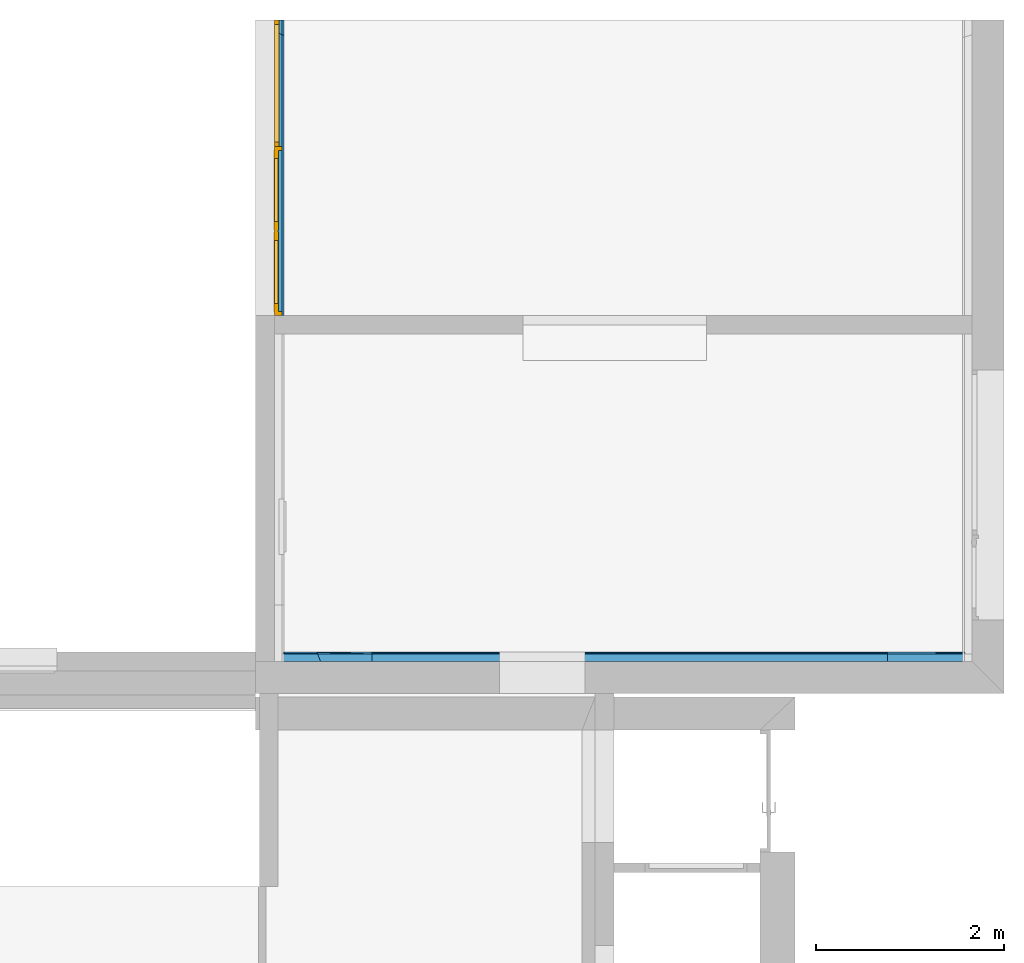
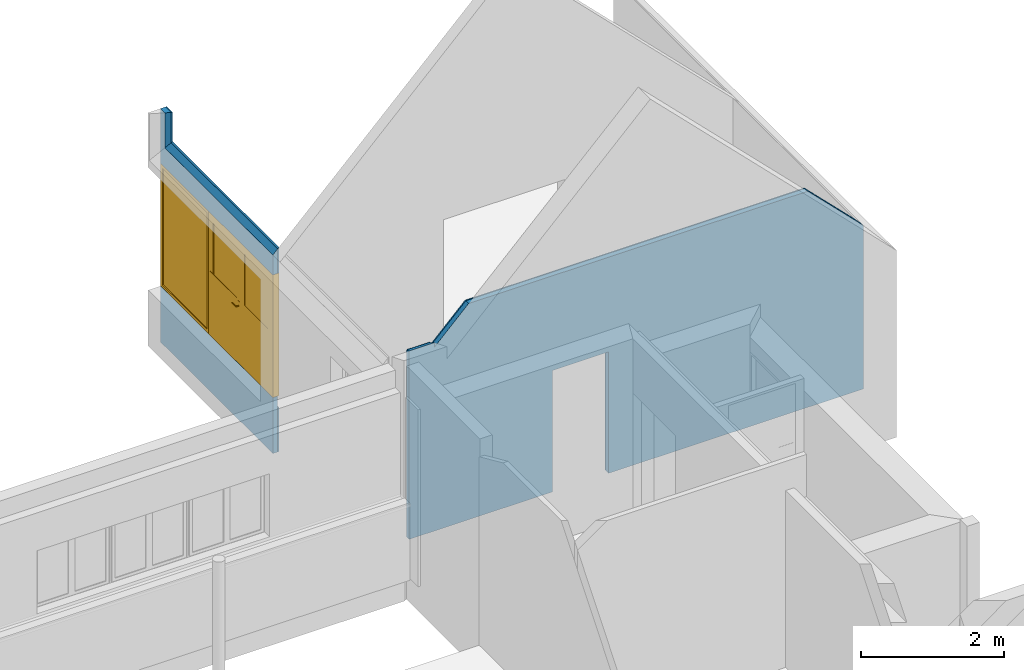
# One storey, part 28 of 34: 4 building element parts, 1 door, 1 window, 3 openings, 2 elements without a shape of their own.
"""IFC2X3 building model written with IfcOpenShell, lengths in metres."""

from ifc_helpers import new_model, entity, si_unit, converted_unit, derived_unit, money_unit, direction, frame, origin_with_axes, origin_2d_with_axis, place, context, subcontext, project, spatial, polyline, rectangle, outline, extrude, boolean, clip, bounded_halfspace, open_shell, faceted_brep, surface_model, material, type_object, element, fill, aggregate, save


model = new_model("IFC2X3")

# Units and contexts
model_context = context("Model", 3, precision=1e-05, world=origin_with_axes(), true_north=direction((0.0, 1.0)))
body_context = subcontext(model_context, "Body", "Model", "MODEL_VIEW")
ifc_project = project(units=[si_unit("LENGTHUNIT", "METRE"), si_unit("AREAUNIT", "SQUARE_METRE"), si_unit("VOLUMEUNIT", "CUBIC_METRE"), converted_unit("PLANEANGLEUNIT", "DEGREE", entity("IfcPlaneAngleMeasure", 0.0174532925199), si_unit("PLANEANGLEUNIT", "RADIAN"), dimensions=[0, 0, 0, 0, 0, 0, 0]), money_unit("CHF"), converted_unit("TIMEUNIT", "Year", entity("IfcTimeMeasure", 31556926.0), si_unit("TIMEUNIT", "SECOND"), dimensions=[0, 0, 1, 0, 0, 0, 0]), si_unit("MASSUNIT", "GRAM", prefix="KILO"), si_unit("THERMODYNAMICTEMPERATUREUNIT", "DEGREE_CELSIUS"), si_unit("LUMINOUSINTENSITYUNIT", "LUMEN"), si_unit("ENERGYUNIT", "JOULE", prefix="MEGA"), derived_unit("THERMALCONDUCTANCEUNIT", [(si_unit("POWERUNIT", "WATT"), 1), (si_unit("LENGTHUNIT", "METRE"), -1), (si_unit("THERMODYNAMICTEMPERATUREUNIT", "KELVIN"), -1)]), derived_unit("SPECIFICHEATCAPACITYUNIT", [(si_unit("ENERGYUNIT", "JOULE"), 1), (si_unit("MASSUNIT", "GRAM", prefix="KILO"), -1), (si_unit("THERMODYNAMICTEMPERATUREUNIT", "KELVIN"), -1)]), derived_unit("MASSDENSITYUNIT", [(si_unit("MASSUNIT", "GRAM", prefix="KILO"), 1), (si_unit("VOLUMEUNIT", "CUBIC_METRE"), -1)])], contexts=[model_context])

# Site, building, storey
site_placement = place(None, origin_with_axes())
site = spatial("IfcSite", under=ifc_project, at=site_placement, Name="Site", CompositionType="ELEMENT")
building_placement = place(site_placement, origin_with_axes())
building = spatial("IfcBuilding", under=site, at=building_placement, Name="Bâtiment", CompositionType="ELEMENT")
storey_placement = place(building_placement, origin_with_axes())
storey = spatial("IfcBuildingStorey", under=building, at=storey_placement, Name="RDC", CompositionType="ELEMENT", Elevation=-5.32907e-15)

# Window
window_style = type_object("IfcWindowStyle", Name="Fenêtre 25", ConstructionType="NOTDEFINED", OperationType="SINGLE_PANEL", ParameterTakesPrecedence=False, Sizeable=False)
wall_2_placement = place(storey_placement, frame((1692.13729001, 194.29004191, 0.0), z_axis=(0.0, 0.0, 1.0), x_axis=(0.0, 1.0, 0.0)))
opening_2_placement = place(wall_2_placement, frame((2.475, 0.0, 0.96), z_axis=(0.0, 0.0, 1.0), x_axis=(1.0, 0.0, 0.0)))
window_placement = place(opening_2_placement, frame((-0.675, 0.0, 0.0), z_axis=(0.0, 0.0, 1.0), x_axis=(1.0, 0.0, 0.0)))
window = element("IfcWindow", 1, at=window_placement, inside=storey, type_object=window_style, Name="Fen-012", OverallHeight=2.1, OverallWidth=1.35, context=body_context, shape_type="SurfaceModel", body=[
    faceted_brep([(1.3, -0.05, 2.05), (1.35, -0.05, 2.05), (1.35, 0.0, 2.05), (1.3, 0.0, 2.05), (1.3, -0.05, 0.05), (1.35, -0.05, 0.05), (1.35, 0.0, 0.05), (1.3, 0.0, 0.05)], [[[0, 1, 2, 3]], [[0, 4, 5, 1]], [[1, 5, 6, 2]], [[3, 2, 6, 7]], [[4, 0, 3, 7]], [[5, 4, 7, 6]]]),
    faceted_brep([(0.05, -0.05, 0.05), (0.0, -0.05, 0.05), (0.0, 0.0, 0.05), (0.05, 0.0, 0.05), (0.05, -0.05, 2.05), (0.0, -0.05, 2.05), (0.0, 0.0, 2.05), (0.05, 0.0, 2.05)], [[[0, 1, 2, 3]], [[0, 4, 5, 1]], [[1, 5, 6, 2]], [[3, 2, 6, 7]], [[4, 0, 3, 7]], [[5, 4, 7, 6]]]),
    faceted_brep([(1.3, -0.05, 0.05), (1.35, -0.05, 0.05), (1.35, 0.0, 0.05), (1.3, 0.0, 0.05), (0.05, -0.05, 0.05), (0.0, -0.05, 0.05), (0.0, -0.05, 0.0), (1.35, -0.05, 0.0), (1.35, 0.0, 0.0), (0.0, 0.0, 0.0), (0.0, 0.0, 0.05), (0.05, 0.0, 0.05)], [[[0, 1, 2, 3]], [[0, 4, 5, 6, 7, 1]], [[1, 7, 8, 2]], [[3, 2, 8, 9, 10, 11]], [[4, 0, 3, 11]], [[5, 4, 11, 10]], [[6, 5, 10, 9]], [[7, 6, 9, 8]]]),
    faceted_brep([(0.05, -0.05, 2.05), (0.0, -0.05, 2.05), (0.0, 0.0, 2.05), (0.05, 0.0, 2.05), (1.3, -0.05, 2.05), (1.35, -0.05, 2.05), (1.35, -0.05, 2.1), (0.0, -0.05, 2.1), (0.0, 0.0, 2.1), (1.35, 0.0, 2.1), (1.35, 0.0, 2.05), (1.3, 0.0, 2.05)], [[[0, 1, 2, 3]], [[0, 4, 5, 6, 7, 1]], [[1, 7, 8, 2]], [[3, 2, 8, 9, 10, 11]], [[4, 0, 3, 11]], [[5, 4, 11, 10]], [[6, 5, 10, 9]], [[7, 6, 9, 8]]]),
    surface_model("IfcShellBasedSurfaceModel", [(1.3, -0.035, 0.05), (1.3, -0.035, 2.05), (0.05, -0.035, 2.05), (0.05, -0.035, 0.05)], [open_shell([[[0, 1, 2, 3]]])]),
    surface_model("IfcShellBasedSurfaceModel", [(1.3, -0.015, 0.05), (0.05, -0.015, 0.05), (0.05, -0.015, 2.05), (1.3, -0.015, 2.05)], [open_shell([[[0, 1, 2, 3]]])]),
])

# Door
door_style = type_object("IfcDoorStyle", Name="Porte double 25", ConstructionType="NOTDEFINED", OperationType="DOUBLE_DOOR_SINGLE_SWING", ParameterTakesPrecedence=False, Sizeable=False)
opening_3_placement = place(wall_2_placement, frame((0.9, 0.0, 0.96), z_axis=(0.0, 0.0, 1.0), x_axis=(1.0, 0.0, 0.0)))
door_placement = place(opening_3_placement, frame((-0.9, 0.0, 0.0), z_axis=(0.0, 0.0, 1.0), x_axis=(1.0, 0.0, 0.0)))
door = element("IfcDoor", 2, at=door_placement, inside=storey, type_object=door_style, Name="Por-006", OverallHeight=2.1, OverallWidth=1.8, context=body_context, shape_type="SurfaceModel", body=[
    faceted_brep([(0.04, -0.04, 0.0), (0.04, -0.04, 2.06), (0.04, -0.1, 2.06), (0.04, -0.1, 0.0), (0.028, -0.04, 2.06), (0.028, -0.04, 0.0), (0.028, 0.0, 2.06), (0.0, 0.0, 2.06), (0.0, -0.1, 2.06), (0.0, -0.1, 0.0), (0.0, 0.0, 0.0), (0.028, 0.0, 0.0)], [[[0, 1, 2, 3]], [[4, 1, 0, 5]], [[4, 6, 7, 8, 2, 1]], [[3, 2, 8, 9]], [[5, 0, 3, 9, 10, 11]], [[6, 4, 5, 11]], [[6, 11, 10, 7]], [[10, 9, 8, 7]]]),
    faceted_brep([(1.772, -0.04, 2.06), (1.76, -0.04, 2.06), (1.76, -0.1, 2.06), (1.8, -0.1, 2.06), (1.8, 0.0, 2.06), (1.772, 0.0, 2.06), (1.772, -0.04, 0.0), (1.76, -0.04, 0.0), (1.76, -0.1, 0.0), (1.8, -0.1, 0.0), (1.8, 0.0, 0.0), (1.772, 0.0, 0.0)], [[[0, 1, 2, 3, 4, 5]], [[1, 0, 6, 7]], [[1, 7, 8, 2]], [[3, 2, 8, 9]], [[4, 3, 9, 10]], [[11, 5, 4, 10]], [[0, 5, 11, 6]], [[6, 11, 10, 9, 8, 7]]]),
    faceted_brep([(0.028, 0.0, 2.072), (0.028, 0.0, 2.06), (0.0, 0.0, 2.06), (0.0, 0.0, 2.1), (1.8, 0.0, 2.1), (1.8, 0.0, 2.06), (1.772, 0.0, 2.06), (1.772, 0.0, 2.072), (0.028, -0.04, 2.072), (0.028, -0.04, 2.06), (0.04, -0.04, 2.06), (0.04, -0.1, 2.06), (0.0, -0.1, 2.06), (0.0, -0.1, 2.1), (1.8, -0.1, 2.1), (1.8, -0.1, 2.06), (1.772, -0.04, 2.06), (1.76, -0.1, 2.06), (1.76, -0.04, 2.06), (1.772, -0.04, 2.072)], [[[0, 1, 2, 3, 4, 5, 6, 7]], [[1, 0, 8, 9]], [[9, 10, 11, 12, 2, 1]], [[2, 12, 13, 3]], [[3, 13, 14, 4]], [[4, 14, 15, 5]], [[16, 6, 5, 15, 17, 18]], [[7, 6, 16, 19]], [[0, 7, 19, 8]], [[16, 18, 10, 9, 8, 19]], [[10, 18, 17, 11]], [[17, 15, 14, 13, 12, 11]]]),
    faceted_brep([(0.925, -0.04, 0.93), (0.926903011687, -0.04, 0.920432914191), (0.926903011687, -0.045, 0.920432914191), (0.925, -0.045, 0.93), (0.925, -0.04, 1.055), (0.926903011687, -0.04, 1.06456708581), (0.93232233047, -0.04, 1.07267766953), (0.940432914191, -0.04, 1.07809698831), (0.95, -0.04, 1.08), (0.959567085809, -0.04, 1.07809698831), (0.96767766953, -0.04, 1.07267766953), (0.973096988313, -0.04, 1.06456708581), (0.975, -0.04, 1.055), (0.975, -0.04, 0.93), (0.973096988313, -0.04, 0.920432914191), (0.96767766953, -0.04, 0.91232233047), (0.959567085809, -0.04, 0.906903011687), (0.95, -0.04, 0.905), (0.940432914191, -0.04, 0.906903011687), (0.93232233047, -0.04, 0.91232233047), (0.93232233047, -0.045, 0.91232233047), (0.940432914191, -0.045, 0.906903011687), (0.95, -0.045, 0.905), (0.959567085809, -0.045, 0.906903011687), (0.96767766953, -0.045, 0.91232233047), (0.973096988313, -0.045, 0.920432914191), (0.975, -0.045, 0.93), (0.975, -0.045, 1.055), (0.973096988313, -0.045, 1.06456708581), (0.96767766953, -0.045, 1.07267766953), (0.959567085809, -0.045, 1.07809698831), (0.95, -0.045, 1.08), (0.940432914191, -0.045, 1.07809698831), (0.93232233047, -0.045, 1.07267766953), (0.926903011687, -0.045, 1.06456708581), (0.925, -0.045, 1.055)], [[[0, 1, 2, 3]], [[0, 4, 5, 6, 7, 8, 9, 10, 11, 12, 13, 14, 15, 16, 17, 18, 19, 1]], [[1, 19, 20, 2]], [[3, 2, 20, 21, 22, 23, 24, 25, 26, 27, 28, 29, 30, 31, 32, 33, 34, 35]], [[4, 0, 3, 35]], [[5, 4, 35, 34]], [[6, 5, 34, 33]], [[7, 6, 33, 32]], [[8, 7, 32, 31]], [[9, 8, 31, 30]], [[10, 9, 30, 29]], [[11, 10, 29, 28]], [[12, 11, 28, 27]], [[13, 12, 27, 26]], [[14, 13, 26, 25]], [[15, 14, 25, 24]], [[16, 15, 24, 23]], [[17, 16, 23, 22]], [[18, 17, 22, 21]], [[19, 18, 21, 20]]]),
    faceted_brep([(0.9575, -0.045, 1.005), (0.9575, -0.075, 1.005), (0.9575, -0.075, 0.995), (0.9575, -0.045, 0.995), (0.9425, -0.045, 1.005), (0.9425, -0.082, 1.005), (0.943489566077, -0.0869748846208, 1.005), (0.946307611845, -0.0911923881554, 1.005), (0.950525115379, -0.0940104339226, 1.005), (0.9555, -0.095, 1.005), (1.0625, -0.095, 1.005), (1.0625, -0.093, 1.005), (1.06151043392, -0.0880251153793, 1.005), (1.05869238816, -0.0838076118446, 1.005), (1.05447488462, -0.0809895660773, 1.005), (1.0495, -0.08, 1.005), (0.9625, -0.08, 1.005), (0.960586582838, -0.0796193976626, 1.005), (0.958964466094, -0.0785355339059, 1.005), (0.957880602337, -0.0769134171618, 1.005), (0.957880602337, -0.0769134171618, 0.995), (0.958964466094, -0.0785355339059, 0.995), (0.960586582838, -0.0796193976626, 0.995), (0.9625, -0.08, 0.995), (1.0495, -0.08, 0.995), (1.05447488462, -0.0809895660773, 0.995), (1.05869238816, -0.0838076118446, 0.995), (1.06151043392, -0.0880251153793, 0.995), (1.0625, -0.093, 0.995), (1.0625, -0.095, 0.995), (0.9555, -0.095, 0.995), (0.950525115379, -0.0940104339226, 0.995), (0.946307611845, -0.0911923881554, 0.995), (0.943489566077, -0.0869748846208, 0.995), (0.9425, -0.082, 0.995), (0.9425, -0.045, 0.995)], [[[0, 1, 2, 3]], [[0, 4, 5, 6, 7, 8, 9, 10, 11, 12, 13, 14, 15, 16, 17, 18, 19, 1]], [[1, 19, 20, 2]], [[3, 2, 20, 21, 22, 23, 24, 25, 26, 27, 28, 29, 30, 31, 32, 33, 34, 35]], [[4, 0, 3, 35]], [[5, 4, 35, 34]], [[6, 5, 34, 33]], [[7, 6, 33, 32]], [[8, 7, 32, 31]], [[9, 8, 31, 30]], [[10, 9, 30, 29]], [[11, 10, 29, 28]], [[12, 11, 28, 27]], [[13, 12, 27, 26]], [[14, 13, 26, 25]], [[15, 14, 25, 24]], [[16, 15, 24, 23]], [[17, 16, 23, 22]], [[18, 17, 22, 21]], [[19, 18, 21, 20]]]),
    faceted_brep([(0.925, 0.0, 0.93), (0.925, 0.005, 0.93), (0.926903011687, 0.005, 0.920432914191), (0.926903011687, 0.0, 0.920432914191), (0.925, 0.0, 1.055), (0.925, 0.005, 1.055), (0.926903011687, 0.005, 1.06456708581), (0.93232233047, 0.005, 1.07267766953), (0.940432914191, 0.005, 1.07809698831), (0.95, 0.005, 1.08), (0.959567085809, 0.005, 1.07809698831), (0.96767766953, 0.005, 1.07267766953), (0.973096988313, 0.005, 1.06456708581), (0.975, 0.005, 1.055), (0.975, 0.005, 0.93), (0.973096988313, 0.005, 0.920432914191), (0.96767766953, 0.005, 0.91232233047), (0.959567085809, 0.005, 0.906903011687), (0.95, 0.005, 0.905), (0.940432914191, 0.005, 0.906903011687), (0.93232233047, 0.005, 0.91232233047), (0.93232233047, 0.0, 0.91232233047), (0.940432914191, 0.0, 0.906903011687), (0.95, 0.0, 0.905), (0.959567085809, 0.0, 0.906903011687), (0.96767766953, 0.0, 0.91232233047), (0.973096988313, 0.0, 0.920432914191), (0.975, 0.0, 0.93), (0.975, 0.0, 1.055), (0.973096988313, 0.0, 1.06456708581), (0.96767766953, 0.0, 1.07267766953), (0.959567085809, 0.0, 1.07809698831), (0.95, 0.0, 1.08), (0.940432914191, 0.0, 1.07809698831), (0.93232233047, 0.0, 1.07267766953), (0.926903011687, 0.0, 1.06456708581)], [[[0, 1, 2, 3]], [[4, 5, 1, 0]], [[1, 5, 6, 7, 8, 9, 10, 11, 12, 13, 14, 15, 16, 17, 18, 19, 20, 2]], [[3, 2, 20, 21]], [[0, 3, 21, 22, 23, 24, 25, 26, 27, 28, 29, 30, 31, 32, 33, 34, 35, 4]], [[35, 6, 5, 4]], [[34, 7, 6, 35]], [[33, 8, 7, 34]], [[32, 9, 8, 33]], [[31, 10, 9, 32]], [[30, 11, 10, 31]], [[29, 12, 11, 30]], [[28, 13, 12, 29]], [[27, 14, 13, 28]], [[26, 15, 14, 27]], [[25, 16, 15, 26]], [[24, 17, 16, 25]], [[23, 18, 17, 24]], [[22, 19, 18, 23]], [[21, 20, 19, 22]]]),
    faceted_brep([(0.9575, 0.005, 1.005), (0.9575, 0.005, 0.995), (0.9575, 0.035, 0.995), (0.9575, 0.035, 1.005), (0.9425, 0.005, 1.005), (0.9425, 0.005, 0.995), (0.9425, 0.042, 0.995), (0.943489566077, 0.0469748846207, 0.995), (0.946307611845, 0.0511923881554, 0.995), (0.950525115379, 0.0540104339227, 0.995), (0.9555, 0.055, 0.995), (1.0625, 0.055, 0.995), (1.0625, 0.053, 0.995), (1.06151043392, 0.0480251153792, 0.995), (1.05869238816, 0.0438076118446, 0.995), (1.05447488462, 0.0409895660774, 0.995), (1.0495, 0.04, 0.995), (0.9625, 0.04, 0.995), (0.960586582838, 0.0396193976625, 0.995), (0.958964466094, 0.0385355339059, 0.995), (0.957880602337, 0.0369134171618, 0.995), (0.957880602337, 0.0369134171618, 1.005), (0.958964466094, 0.0385355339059, 1.005), (0.960586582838, 0.0396193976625, 1.005), (0.9625, 0.04, 1.005), (1.0495, 0.04, 1.005), (1.05447488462, 0.0409895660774, 1.005), (1.05869238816, 0.0438076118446, 1.005), (1.06151043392, 0.0480251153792, 1.005), (1.0625, 0.053, 1.005), (1.0625, 0.055, 1.005), (0.9555, 0.055, 1.005), (0.950525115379, 0.0540104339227, 1.005), (0.946307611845, 0.0511923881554, 1.005), (0.943489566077, 0.0469748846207, 1.005), (0.9425, 0.042, 1.005)], [[[0, 1, 2, 3]], [[4, 5, 1, 0]], [[1, 5, 6, 7, 8, 9, 10, 11, 12, 13, 14, 15, 16, 17, 18, 19, 20, 2]], [[3, 2, 20, 21]], [[0, 3, 21, 22, 23, 24, 25, 26, 27, 28, 29, 30, 31, 32, 33, 34, 35, 4]], [[35, 6, 5, 4]], [[34, 7, 6, 35]], [[33, 8, 7, 34]], [[32, 9, 8, 33]], [[31, 10, 9, 32]], [[30, 11, 10, 31]], [[29, 12, 11, 30]], [[28, 13, 12, 29]], [[27, 14, 13, 28]], [[26, 15, 14, 27]], [[25, 16, 15, 26]], [[24, 17, 16, 25]], [[23, 18, 17, 24]], [[22, 19, 18, 23]], [[21, 20, 19, 22]]]),
    faceted_brep([(1.762, 0.00200000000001, 0.01), (1.762, 0.0, 0.01), (0.91, 0.0, 0.01), (0.91, 0.00200000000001, 0.01), (1.762, 0.00200000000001, 1.1), (1.762, 0.0, 1.1), (0.91, 0.0, 1.1), (0.91, 0.00200000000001, 1.1)], [[[0, 1, 2, 3]], [[4, 5, 1, 0]], [[1, 5, 6, 2]], [[3, 2, 6, 7]], [[0, 3, 7, 4]], [[7, 6, 5, 4]]]),
    faceted_brep([(1.762, -0.04, 0.01), (1.762, -0.042, 0.01), (0.91, -0.042, 0.01), (0.91, -0.04, 0.01), (1.762, -0.04, 1.1), (1.762, -0.042, 1.1), (0.91, -0.042, 1.1), (0.91, -0.04, 1.1)], [[[0, 1, 2, 3]], [[4, 5, 1, 0]], [[1, 5, 6, 2]], [[3, 2, 6, 7]], [[0, 3, 7, 4]], [[7, 6, 5, 4]]]),
    faceted_brep([(1.772, 0.0, 0.2), (1.772, -0.04, 0.2), (1.672, -0.04, 0.2), (1.672, 0.0, 0.2), (1.772, 0.0, 1.972), (1.772, -0.04, 1.972), (1.672, -0.04, 1.972), (1.672, 0.0, 1.972)], [[[0, 1, 2, 3]], [[4, 5, 1, 0]], [[1, 5, 6, 2]], [[3, 2, 6, 7]], [[0, 3, 7, 4]], [[7, 6, 5, 4]]]),
    faceted_brep([(0.9, 0.0, 0.2), (0.9, -0.04, 0.2), (0.9, -0.04, 1.972), (0.9, 0.0, 1.972), (1.0, 0.0, 0.2), (1.0, -0.04, 0.2), (1.0, -0.04, 1.972), (1.0, 0.0, 1.972)], [[[0, 1, 2, 3]], [[4, 5, 1, 0]], [[1, 5, 6, 2]], [[3, 2, 6, 7]], [[0, 3, 7, 4]], [[7, 6, 5, 4]]]),
    faceted_brep([(1.772, 0.0, 0.0), (1.772, -0.04, 0.0), (0.9, -0.04, 0.0), (0.9, 0.0, 0.0), (1.772, 0.0, 0.2), (1.772, -0.04, 0.2), (1.672, -0.04, 0.2), (1.0, -0.04, 0.2), (0.9, -0.04, 0.2), (0.9, 0.0, 0.2), (1.0, 0.0, 0.2), (1.672, 0.0, 0.2)], [[[0, 1, 2, 3]], [[4, 5, 1, 0]], [[1, 5, 6, 7, 8, 2]], [[3, 2, 8, 9]], [[0, 3, 9, 10, 11, 4]], [[11, 6, 5, 4]], [[10, 7, 6, 11]], [[9, 8, 7, 10]]]),
    faceted_brep([(1.772, 0.0, 2.072), (1.772, -0.04, 2.072), (1.772, -0.04, 1.972), (1.772, 0.0, 1.972), (0.9, 0.0, 2.072), (0.9, -0.04, 2.072), (0.9, -0.04, 1.972), (1.0, -0.04, 1.972), (1.672, -0.04, 1.972), (1.672, 0.0, 1.972), (1.0, 0.0, 1.972), (0.9, 0.0, 1.972)], [[[0, 1, 2, 3]], [[4, 5, 1, 0]], [[1, 5, 6, 7, 8, 2]], [[3, 2, 8, 9]], [[0, 3, 9, 10, 11, 4]], [[11, 6, 5, 4]], [[10, 7, 6, 11]], [[9, 8, 7, 10]]]),
    surface_model("IfcShellBasedSurfaceModel", [(1.672, -0.014, 0.2), (1.0, -0.014, 0.2), (1.0, -0.014, 1.972), (1.672, -0.014, 1.972)], [open_shell([[[0, 1, 2, 3]]])]),
    surface_model("IfcShellBasedSurfaceModel", [(1.672, -0.026, 0.2), (1.672, -0.026, 1.972), (1.0, -0.026, 1.972), (1.0, -0.026, 0.2)], [open_shell([[[0, 1, 2, 3]]])]),
    faceted_brep([(0.038, 0.00200000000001, 0.01), (0.89, 0.00200000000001, 0.01), (0.89, 0.0, 0.01), (0.038, 0.0, 0.01), (0.038, 0.00200000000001, 1.1), (0.89, 0.00200000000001, 1.1), (0.89, 0.0, 1.1), (0.038, 0.0, 1.1)], [[[0, 1, 2, 3]], [[0, 4, 5, 1]], [[1, 5, 6, 2]], [[3, 2, 6, 7]], [[4, 0, 3, 7]], [[5, 4, 7, 6]]]),
    faceted_brep([(0.038, -0.04, 0.01), (0.89, -0.04, 0.01), (0.89, -0.042, 0.01), (0.038, -0.042, 0.01), (0.038, -0.04, 1.1), (0.89, -0.04, 1.1), (0.89, -0.042, 1.1), (0.038, -0.042, 1.1)], [[[0, 1, 2, 3]], [[0, 4, 5, 1]], [[1, 5, 6, 2]], [[3, 2, 6, 7]], [[4, 0, 3, 7]], [[5, 4, 7, 6]]]),
    faceted_brep([(0.028, 0.0, 0.2), (0.128, 0.0, 0.2), (0.128, -0.04, 0.2), (0.028, -0.04, 0.2), (0.028, 0.0, 1.972), (0.128, 0.0, 1.972), (0.128, -0.04, 1.972), (0.028, -0.04, 1.972)], [[[0, 1, 2, 3]], [[0, 4, 5, 1]], [[1, 5, 6, 2]], [[3, 2, 6, 7]], [[4, 0, 3, 7]], [[5, 4, 7, 6]]]),
    faceted_brep([(0.9, 0.0, 0.2), (0.9, 0.0, 1.972), (0.9, -0.04, 1.972), (0.9, -0.04, 0.2), (0.8, 0.0, 0.2), (0.8, 0.0, 1.972), (0.8, -0.04, 1.972), (0.8, -0.04, 0.2)], [[[0, 1, 2, 3]], [[0, 4, 5, 1]], [[1, 5, 6, 2]], [[3, 2, 6, 7]], [[4, 0, 3, 7]], [[5, 4, 7, 6]]]),
    faceted_brep([(0.028, 0.0, 0.0), (0.9, 0.0, 0.0), (0.9, -0.04, 0.0), (0.028, -0.04, 0.0), (0.028, 0.0, 0.2), (0.128, 0.0, 0.2), (0.8, 0.0, 0.2), (0.9, 0.0, 0.2), (0.9, -0.04, 0.2), (0.8, -0.04, 0.2), (0.128, -0.04, 0.2), (0.028, -0.04, 0.2)], [[[0, 1, 2, 3]], [[0, 4, 5, 6, 7, 1]], [[1, 7, 8, 2]], [[3, 2, 8, 9, 10, 11]], [[4, 0, 3, 11]], [[5, 4, 11, 10]], [[6, 5, 10, 9]], [[7, 6, 9, 8]]]),
    faceted_brep([(0.028, 0.0, 2.072), (0.028, 0.0, 1.972), (0.028, -0.04, 1.972), (0.028, -0.04, 2.072), (0.9, 0.0, 2.072), (0.9, 0.0, 1.972), (0.8, 0.0, 1.972), (0.128, 0.0, 1.972), (0.128, -0.04, 1.972), (0.8, -0.04, 1.972), (0.9, -0.04, 1.972), (0.9, -0.04, 2.072)], [[[0, 1, 2, 3]], [[0, 4, 5, 6, 7, 1]], [[1, 7, 8, 2]], [[3, 2, 8, 9, 10, 11]], [[4, 0, 3, 11]], [[5, 4, 11, 10]], [[6, 5, 10, 9]], [[7, 6, 9, 8]]]),
    surface_model("IfcShellBasedSurfaceModel", [(0.128, -0.014, 0.2), (0.128, -0.014, 1.972), (0.8, -0.014, 1.972), (0.8, -0.014, 0.2)], [open_shell([[[0, 1, 2, 3]]])]),
    surface_model("IfcShellBasedSurfaceModel", [(0.128, -0.026, 0.2), (0.8, -0.026, 0.2), (0.8, -0.026, 1.972), (0.128, -0.026, 1.972)], [open_shell([[[0, 1, 2, 3]]])]),
])

# Wall, opening, building element parts
wall_type = type_object("IfcWallType", Name="DOUBLAGE ISO + BA13 10 CM  100", PredefinedType="NOTDEFINED")
wall_1_placement = place(storey_placement, frame((1692.13729001, 190.60004191, 0.74), z_axis=(0.0, 0.0, 1.0), x_axis=(1.0, 0.0, 0.0)))
wall_1 = element("IfcWall", 3, at=wall_1_placement, inside=storey, type_object=wall_type, Name="Mur-006")
opening_1_placement = place(wall_1_placement, frame((2.855, 0.0, 0.0), z_axis=(0.0, 0.0, 1.0), x_axis=(1.0, 0.0, 0.0)))
element("IfcOpeningElement", 4, at=opening_1_placement, cuts=wall_1, Name="Por-004", context=body_context, shape_type="SweptSolid", body=[
    extrude(rectangle(XDim=0.91, YDim=2.08, at=origin_2d_with_axis()), frame((0.0, 0.1, 1.04), z_axis=(0.0, -1.0, 0.0), x_axis=(1.0, 0.0, 0.0)), (0.0, 0.0, -1.0), 0.1),
    extrude(rectangle(XDim=0.91, YDim=2.08, at=origin_2d_with_axis()), frame((0.0, 0.1, 1.04), z_axis=(0.0, 1.0, 0.0), x_axis=(1.0, 0.0, 0.0)), (0.0, 0.0, -1.0), 0.1),
])
ifc_material_1 = material(Name="Plâtre lissé 291446788")
building_element_part_1_placement = place(wall_1_placement, origin_with_axes())
building_element_part_1 = element("IfcBuildingElementPart", 5, at=building_element_part_1_placement, material=ifc_material_1, Name="Plâtre lissé 291446788", context=body_context, shape_type="CSG", body=[
    boolean("DIFFERENCE", boolean("DIFFERENCE", boolean("DIFFERENCE", boolean("DIFFERENCE", boolean("DIFFERENCE", boolean("DIFFERENCE", clip(extrude(outline(polyline([(-0.2, 0.08), (7.78, 0.08), (7.78, 0.1), (-0.2, 0.1), (-0.2, 0.08)])), origin_with_axes(), (0.0, 0.0, 1.0), 3.70258067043), bounded_halfspace(frame((0.0, 1.11300192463, 2.78250481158), z_axis=(0.0, -0.371390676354, -0.928476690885), x_axis=(0.0, 0.928476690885, -0.371390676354)), True, origin_with_axes(), polyline([(-25.0097911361, 0.1), (-24.9660764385, -0.01), (0.528097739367, -0.01), (0.480408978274, 0.11), (-25.0097911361, 0.11), (-25.0097911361, 0.1)]))), faceted_brep([(0.0, 0.0999999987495, 3.70258067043), (0.0, 0.0999999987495, 3.26), (0.1, 0.1, 3.26), (0.1, 0.1, 0.0), (-0.2, 0.1, 0.0), (-0.2, 0.1, 3.70258067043), (0.0, 0.08, 3.70258067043), (0.0, 0.08, 3.26), (0.08, 0.08, 3.26), (0.1, 0.08, 3.26), (0.1, 0.08, 0.0), (-0.2, 0.08, 0.0), (-0.2, 0.08, 3.70258067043)], [[[0, 1, 2, 3, 4, 5]], [[1, 0, 6, 7]], [[2, 1, 7, 8, 9]], [[3, 2, 9, 10]], [[3, 10, 11, 4]], [[5, 4, 11, 12]], [[6, 0, 5, 12]], [[7, 6, 12, 11, 10, 9, 8]]])), faceted_brep([(0.452507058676, 0.0999999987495, 3.70258067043), (0.460455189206, 0.08, 3.70258067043), (1.04258064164, 0.08, 3.70258067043), (1.04258064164, 0.0999999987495, 3.70258067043), (0.460455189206, 0.08, 3.120455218), (0.452507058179, 0.1, 3.11250708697)], [[[0, 1, 2, 3]], [[4, 1, 0, 5]], [[4, 2, 1]], [[5, 3, 2, 4]], [[5, 0, 3]]])), faceted_brep([(7.36, 0.0999999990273, 2.87999996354), (6.53741929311, 0.0999999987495, 3.70258067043), (7.78, 0.1, 3.70258067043), (7.78, 0.1, 0.0), (7.36, 0.1, 0.0), (7.36, 0.08, 2.87999996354), (6.53741929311, 0.08, 3.70258067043), (7.78, 0.08, 3.70258067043), (7.78, 0.08, 0.0), (7.36, 0.08, 0.0)], [[[0, 1, 2, 3, 4]], [[1, 0, 5, 6]], [[1, 6, 7, 2]], [[7, 8, 3, 2]], [[9, 4, 3, 8]], [[0, 4, 9, 5]], [[5, 9, 8, 7, 6]]])), faceted_brep([(0.0, 0.08, 3.70258067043), (0.0, 0.08, 3.26), (0.08, 0.08, 3.26), (0.08, 0.08, 0.0), (-0.2, 0.08, 0.0), (-0.2, 0.08, 3.70258067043), (0.0, 0.0, 3.70258067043), (0.0, 0.0, 3.26), (0.08, 0.0, 3.26), (0.08, 0.0, 0.0), (-0.2, 0.0, 0.0), (-0.2, 0.0, 3.70258067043)], [[[0, 1, 2, 3, 4, 5]], [[1, 0, 6, 7]], [[2, 1, 7, 8]], [[3, 2, 8, 9]], [[3, 9, 10, 4]], [[5, 4, 10, 11]], [[6, 0, 5, 11]], [[7, 6, 11, 10, 9, 8]]])), faceted_brep([(0.460455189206, 0.08, 3.70258067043), (0.492247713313, 0.0, 3.70258067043), (1.04258064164, 0.0, 3.70258067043), (1.04258064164, 0.08, 3.70258067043), (0.492247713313, 0.0, 3.1522477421), (0.460455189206, 0.08, 3.120455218)], [[[0, 1, 2, 3]], [[4, 1, 0, 5]], [[4, 2, 1]], [[5, 3, 2, 4]], [[5, 0, 3]]])), faceted_brep([(7.36, 0.08, 2.87999996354), (6.53741929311, 0.08, 3.70258067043), (7.78, 0.08, 3.70258067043), (7.78, 0.08, 0.0), (7.44, 0.08, 0.0), (7.44, 0.08, 2.79999996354), (7.44, 0.0, 2.79999996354), (6.53741929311, 0.0, 3.70258067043), (7.78, 0.0, 3.70258067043), (7.78, 0.0, 0.0), (7.44, 0.0, 0.0)], [[[0, 1, 2, 3, 4, 5]], [[0, 5, 6, 7, 1]], [[1, 7, 8, 2]], [[8, 9, 3, 2]], [[10, 4, 3, 9]], [[5, 4, 10, 6]], [[6, 10, 9, 8, 7]]])),
])
ifc_material_2 = material(Name="Isolation laine de pierre 378182646")
building_element_part_2_placement = place(wall_1_placement, origin_with_axes())
building_element_part_2 = element("IfcBuildingElementPart", 6, at=building_element_part_2_placement, material=ifc_material_2, Name="Isolation laine de pierre 378182646", context=body_context, shape_type="CSG", body=[
    boolean("DIFFERENCE", boolean("DIFFERENCE", boolean("DIFFERENCE", boolean("DIFFERENCE", boolean("DIFFERENCE", boolean("DIFFERENCE", clip(extrude(outline(polyline([(-0.2, 0.0), (7.78, 0.0), (7.78, 0.08), (-0.2, 0.08), (-0.2, 0.0)])), origin_with_axes(), (0.0, 0.0, 1.0), 3.70258067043), bounded_halfspace(frame((0.0, 1.11300192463, 2.78250481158), z_axis=(0.0, -0.371390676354, -0.928476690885), x_axis=(0.0, 0.928476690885, -0.371390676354)), True, origin_with_axes(), polyline([(-25.0097911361, 0.1), (-24.9660764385, -0.01), (0.528097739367, -0.01), (0.480408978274, 0.11), (-25.0097911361, 0.11), (-25.0097911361, 0.1)]))), faceted_brep([(0.0, 0.0999999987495, 3.70258067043), (0.0, 0.0999999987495, 3.26), (0.1, 0.1, 3.26), (0.1, 0.1, 0.0), (-0.2, 0.1, 0.0), (-0.2, 0.1, 3.70258067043), (0.0, 0.08, 3.70258067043), (0.0, 0.08, 3.26), (0.08, 0.08, 3.26), (0.1, 0.08, 3.26), (0.1, 0.08, 0.0), (-0.2, 0.08, 0.0), (-0.2, 0.08, 3.70258067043)], [[[0, 1, 2, 3, 4, 5]], [[1, 0, 6, 7]], [[2, 1, 7, 8, 9]], [[3, 2, 9, 10]], [[3, 10, 11, 4]], [[5, 4, 11, 12]], [[6, 0, 5, 12]], [[7, 6, 12, 11, 10, 9, 8]]])), faceted_brep([(0.452507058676, 0.0999999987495, 3.70258067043), (0.460455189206, 0.08, 3.70258067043), (1.04258064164, 0.08, 3.70258067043), (1.04258064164, 0.0999999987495, 3.70258067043), (0.460455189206, 0.08, 3.120455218), (0.452507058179, 0.1, 3.11250708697)], [[[0, 1, 2, 3]], [[4, 1, 0, 5]], [[4, 2, 1]], [[5, 3, 2, 4]], [[5, 0, 3]]])), faceted_brep([(7.36, 0.0999999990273, 2.87999996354), (6.53741929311, 0.0999999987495, 3.70258067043), (7.78, 0.1, 3.70258067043), (7.78, 0.1, 0.0), (7.36, 0.1, 0.0), (7.36, 0.08, 2.87999996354), (6.53741929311, 0.08, 3.70258067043), (7.78, 0.08, 3.70258067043), (7.78, 0.08, 0.0), (7.36, 0.08, 0.0)], [[[0, 1, 2, 3, 4]], [[1, 0, 5, 6]], [[1, 6, 7, 2]], [[7, 8, 3, 2]], [[9, 4, 3, 8]], [[0, 4, 9, 5]], [[5, 9, 8, 7, 6]]])), faceted_brep([(0.0, 0.08, 3.70258067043), (0.0, 0.08, 3.26), (0.08, 0.08, 3.26), (0.08, 0.08, 0.0), (-0.2, 0.08, 0.0), (-0.2, 0.08, 3.70258067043), (0.0, 0.0, 3.70258067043), (0.0, 0.0, 3.26), (0.08, 0.0, 3.26), (0.08, 0.0, 0.0), (-0.2, 0.0, 0.0), (-0.2, 0.0, 3.70258067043)], [[[0, 1, 2, 3, 4, 5]], [[1, 0, 6, 7]], [[2, 1, 7, 8]], [[3, 2, 8, 9]], [[3, 9, 10, 4]], [[5, 4, 10, 11]], [[6, 0, 5, 11]], [[7, 6, 11, 10, 9, 8]]])), faceted_brep([(0.460455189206, 0.08, 3.70258067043), (0.492247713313, 0.0, 3.70258067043), (1.04258064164, 0.0, 3.70258067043), (1.04258064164, 0.08, 3.70258067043), (0.492247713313, 0.0, 3.1522477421), (0.460455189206, 0.08, 3.120455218)], [[[0, 1, 2, 3]], [[4, 1, 0, 5]], [[4, 2, 1]], [[5, 3, 2, 4]], [[5, 0, 3]]])), faceted_brep([(7.36, 0.08, 2.87999996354), (6.53741929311, 0.08, 3.70258067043), (7.78, 0.08, 3.70258067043), (7.78, 0.08, 0.0), (7.44, 0.08, 0.0), (7.44, 0.08, 2.79999996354), (7.44, 0.0, 2.79999996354), (6.53741929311, 0.0, 3.70258067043), (7.78, 0.0, 3.70258067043), (7.78, 0.0, 0.0), (7.44, 0.0, 0.0)], [[[0, 1, 2, 3, 4, 5]], [[0, 5, 6, 7, 1]], [[1, 7, 8, 2]], [[8, 9, 3, 2]], [[10, 4, 3, 9]], [[5, 4, 10, 6]], [[6, 10, 9, 8, 7]]])),
])
aggregate(wall_1, [building_element_part_1, building_element_part_2])

# Wall, opening
wall_2 = element("IfcWall", 7, at=wall_2_placement, inside=storey, type_object=wall_type, Name="Mur-009")
opening_2 = element("IfcOpeningElement", 8, at=opening_2_placement, cuts=wall_2, Name="Fen-012", context=body_context, shape_type="SweptSolid", body=[
    extrude(rectangle(XDim=1.35, YDim=2.1, at=origin_2d_with_axis()), frame((0.0, -0.1, 1.05), z_axis=(0.0, -1.0, 0.0), x_axis=(-1.0, 0.0, 0.0)), (0.0, 0.0, -1.0), 0.3),
])

fill(opening_2, window)

# Opening
opening_3 = element("IfcOpeningElement", 9, at=opening_3_placement, cuts=wall_2, Name="Por-006", context=body_context, shape_type="SweptSolid", body=[
    extrude(rectangle(XDim=1.8, YDim=2.1, at=origin_2d_with_axis()), frame((0.0, -0.1, 1.05), z_axis=(0.0, 1.0, 0.0), x_axis=(1.0, 0.0, 0.0)), (0.0, 0.0, 1.0), 0.3),
])

fill(opening_3, door)

# Building element part
building_element_part_3_placement = place(wall_2_placement, origin_with_axes())
building_element_part_3 = element("IfcBuildingElementPart", 10, at=building_element_part_3_placement, material=ifc_material_1, Name="Plâtre lissé 291446788", context=body_context, shape_type="CSG", body=[
    boolean("DIFFERENCE", boolean("DIFFERENCE", boolean("DIFFERENCE", extrude(outline(polyline([(0.0, -0.1), (3.15, -0.1), (3.15, -0.08), (0.0, -0.08), (0.0, -0.1)])), origin_with_axes(), (0.0, 0.0, 1.0), 4.0), faceted_brep([(0.0, -0.1, 3.50000002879), (2.98525044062, -0.1, 3.50000002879), (2.98525044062, -0.1, 4.0), (0.0, -0.1, 4.0), (0.0, -0.08, 3.48000002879), (2.99413874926, -0.08, 3.48000002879), (2.99413874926, -0.08, 4.0), (0.0, -0.08, 4.0)], [[[0, 1, 2, 3]], [[1, 0, 4, 5]], [[6, 2, 1, 5]], [[2, 6, 7, 3]], [[4, 0, 3, 7]], [[5, 4, 7, 6]]])), faceted_brep([(3.15, -0.1, 0.96), (0.0, -0.1, 0.96), (0.0, -0.1, 0.76), (3.15, -0.1, 0.76), (3.15, -0.08, 0.96), (0.0, -0.08, 0.96), (0.0, -0.08, 0.76), (3.15, -0.08, 0.76)], [[[0, 1, 2, 3]], [[1, 0, 4, 5]], [[1, 5, 6, 2]], [[7, 3, 2, 6]], [[4, 0, 3, 7]], [[5, 4, 7, 6]]])), faceted_brep([(0.0, -0.08, 3.48000002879), (2.99413874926, -0.08, 3.48000002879), (2.99413874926, -0.08, 4.0), (0.0, -0.08, 4.0), (0.0, 0.0, 3.40000002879), (3.02969198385, 0.0, 3.40000002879), (3.02969198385, 0.0, 4.0), (0.0, 0.0, 4.0)], [[[0, 1, 2, 3]], [[1, 0, 4, 5]], [[6, 2, 1, 5]], [[2, 6, 7, 3]], [[4, 0, 3, 7]], [[5, 4, 7, 6]]])),
])

building_element_part_4_placement = place(wall_2_placement, origin_with_axes())
building_element_part_4 = element("IfcBuildingElementPart", 11, at=building_element_part_4_placement, material=ifc_material_2, Name="Isolation laine de pierre 378182646", context=body_context, shape_type="CSG", body=[
    boolean("DIFFERENCE", boolean("DIFFERENCE", boolean("DIFFERENCE", extrude(outline(polyline([(0.0, -0.08), (3.15, -0.08), (3.15, 0.0), (0.0, 0.0), (0.0, -0.08)])), origin_with_axes(), (0.0, 0.0, 1.0), 4.0), faceted_brep([(0.0, -0.1, 3.50000002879), (2.98525044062, -0.1, 3.50000002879), (2.98525044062, -0.1, 4.0), (0.0, -0.1, 4.0), (0.0, -0.08, 3.48000002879), (2.99413874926, -0.08, 3.48000002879), (2.99413874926, -0.08, 4.0), (0.0, -0.08, 4.0)], [[[0, 1, 2, 3]], [[1, 0, 4, 5]], [[6, 2, 1, 5]], [[2, 6, 7, 3]], [[4, 0, 3, 7]], [[5, 4, 7, 6]]])), faceted_brep([(3.15, -0.1, 0.96), (0.0, -0.1, 0.96), (0.0, -0.1, 0.76), (3.15, -0.1, 0.76), (3.15, -0.08, 0.96), (0.0, -0.08, 0.96), (0.0, -0.08, 0.76), (3.15, -0.08, 0.76)], [[[0, 1, 2, 3]], [[1, 0, 4, 5]], [[1, 5, 6, 2]], [[7, 3, 2, 6]], [[4, 0, 3, 7]], [[5, 4, 7, 6]]])), faceted_brep([(0.0, -0.08, 3.48000002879), (2.99413874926, -0.08, 3.48000002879), (2.99413874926, -0.08, 4.0), (0.0, -0.08, 4.0), (0.0, 0.0, 3.40000002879), (3.02969198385, 0.0, 3.40000002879), (3.02969198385, 0.0, 4.0), (0.0, 0.0, 4.0)], [[[0, 1, 2, 3]], [[1, 0, 4, 5]], [[6, 2, 1, 5]], [[2, 6, 7, 3]], [[4, 0, 3, 7]], [[5, 4, 7, 6]]])),
])

aggregate(wall_2, [building_element_part_3, building_element_part_4])

save(model, "model.ifc")
